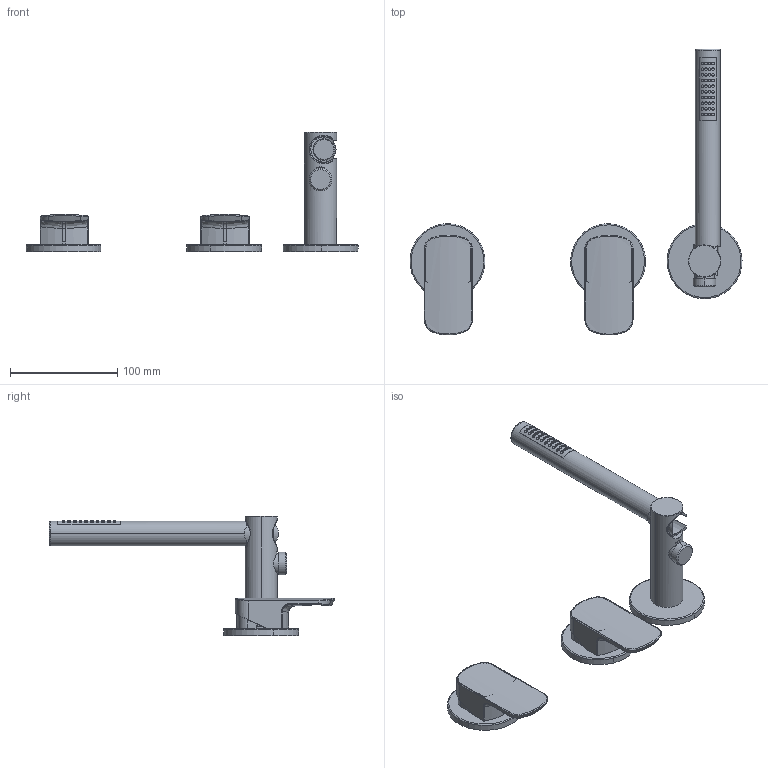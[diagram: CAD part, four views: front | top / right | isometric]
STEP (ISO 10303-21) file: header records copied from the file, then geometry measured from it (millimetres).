
FILE_DESCRIPTION (( 'STEP AP214' ), '1' );
FILE_NAME ('56230810 x architetti.STEP', '2024-10-24T13:06:47', ( '' ), ( '' ), 'SwSTEP 2.0', 'SolidWorks 2020', '' );
FILE_SCHEMA (( 'AUTOMOTIVE_DESIGN' ));
Length unit declared in the file: millimetre
Products named in the file (1): 56230810 x architetti
Bounding box: 310.05 x 266.93 x 111.2 mm (x, y, z)
Volume: 316985.7 mm3; surface area: 94182.1 mm2
Topology: 5 solids, 12 shells, 1681 faces, 4539 edges, 2860 vertices
Faces by surface type: plane 734, cylinder 636, bspline 230, cone 52, torus 29
Entity records: 85988 total; most frequent: CARTESIAN_POINT 30960, ORIENTED_EDGE 8926, DIRECTION 5749, EDGE_CURVE 4463, VERTEX_POINT 2860, B_SPLINE_CURVE_WITH_KNOTS 2030, AXIS2_PLACEMENT_3D 1995, EDGE_LOOP 1779
